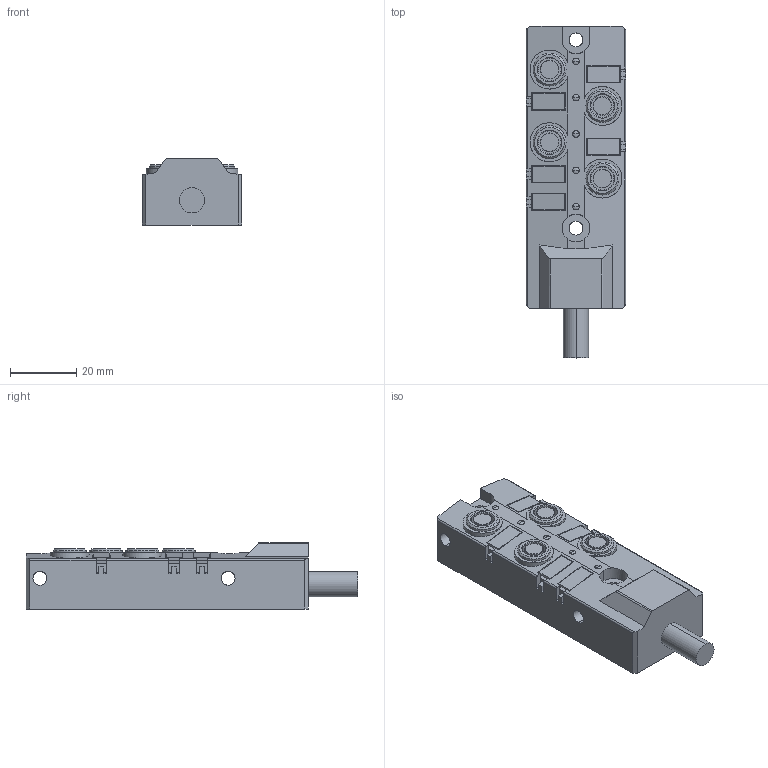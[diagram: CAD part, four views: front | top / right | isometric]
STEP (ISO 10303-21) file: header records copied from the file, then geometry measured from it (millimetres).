
FILE_DESCRIPTION( ( '' ), '1' );
FILE_NAME( '//expscmdclustefs.cadenas.external/client_exchange/iodir/jobs/output/wkb59775913_no0/STEP/EBC048_2_03.stp', '2013-06-25T12:41:01', ( '' ), ( '' ), ' ', ' ', ' ' );
FILE_SCHEMA( ( 'CONFIG_CONTROL_DESIGN' ) );
Length unit declared in the file: millimetre
Products named in the file (1): 1
Bounding box: 30 x 100.5 x 20 mm (x, y, z)
Volume: 41260.9 mm3; surface area: 13133 mm2
Topology: 1 solids, 1 shells, 264 faces, 734 edges, 478 vertices
Faces by surface type: plane 162, cylinder 68, cone 16, sphere 10, torus 8
Entity records: 8455 total; most frequent: CARTESIAN_POINT 1467, DIRECTION 1465, ORIENTED_EDGE 1448, EDGE_CURVE 724, LINE 513, VECTOR 513, VERTEX_POINT 478, AXIS2_PLACEMENT_3D 476
